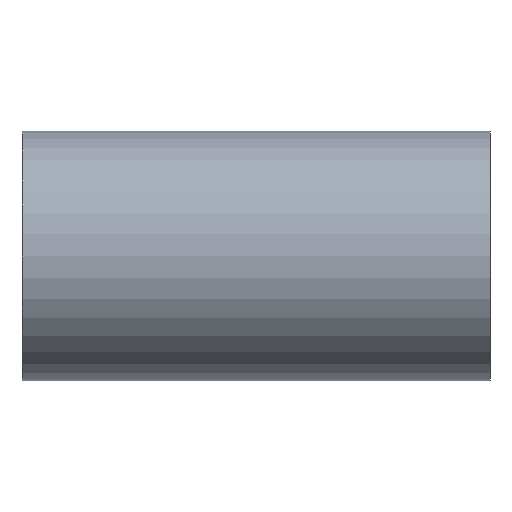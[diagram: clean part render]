
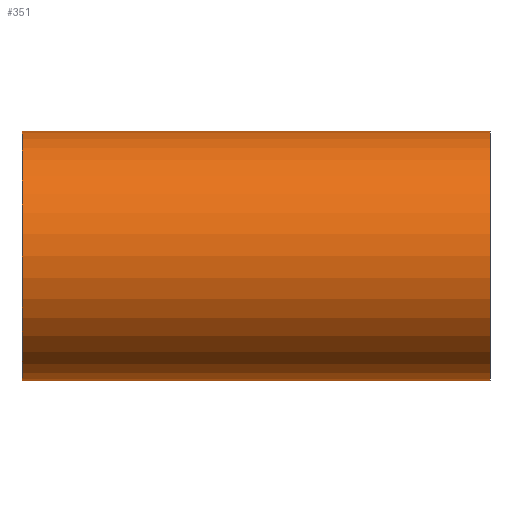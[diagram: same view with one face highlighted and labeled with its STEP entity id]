
A CAD part, front view. The second image highlights one B-rep face of the part: STEP entity #351.
In plain terms, the highlighted cylindrical face has radius 31.75 mm (diameter 63.5 mm), a partial arc.
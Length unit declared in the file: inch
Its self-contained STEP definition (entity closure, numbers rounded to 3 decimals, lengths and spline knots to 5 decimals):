
#6 = EDGE_LOOP ( 'NONE', ( #121, #387, #478, #99 ) ) ;
#21 = DIRECTION ( 'NONE',  ( 0., 0., -1. ) ) ;
#26 = CARTESIAN_POINT ( 'NONE',  ( -2.3435, 0., 0. ) ) ;
#48 = DIRECTION ( 'NONE',  ( 1., 0., 0. ) ) ;
#81 = VECTOR ( 'NONE', #574, 39.37008 ) ;
#99 = ORIENTED_EDGE ( 'NONE', *, *, #378, .T. ) ;
#121 = ORIENTED_EDGE ( 'NONE', *, *, #578, .F. ) ;
#158 = LINE ( 'NONE', #486, #513 ) ;
#159 = CARTESIAN_POINT ( 'NONE',  ( -2.3435, 0., 1.25 ) ) ;
#184 = CIRCLE ( 'NONE', #331, 1.25 ) ;
#195 = DIRECTION ( 'NONE',  ( -1., 0., 0. ) ) ;
#202 = LINE ( 'NONE', #577, #81 ) ;
#216 = FACE_OUTER_BOUND ( 'NONE', #6, .T. ) ;
#238 = CARTESIAN_POINT ( 'NONE',  ( 2.3435, 0., 1.25 ) ) ;
#243 = DIRECTION ( 'NONE',  ( 0., 0., -1. ) ) ;
#304 = DIRECTION ( 'NONE',  ( 1., 0., 0. ) ) ;
#328 = DIRECTION ( 'NONE',  ( -1., 0., 0. ) ) ;
#329 = CIRCLE ( 'NONE', #517, 1.25 ) ;
#331 = AXIS2_PLACEMENT_3D ( 'NONE', #585, #304, #21 ) ;
#338 = VERTEX_POINT ( 'NONE', #514 ) ;
#351 = ADVANCED_FACE ( 'NONE', ( #216 ), #516, .T. ) ;
#373 = VERTEX_POINT ( 'NONE', #238 ) ;
#378 = EDGE_CURVE ( 'NONE', #599, #470, #329, .T. ) ;
#387 = ORIENTED_EDGE ( 'NONE', *, *, #545, .F. ) ;
#388 = DIRECTION ( 'NONE',  ( 0., 0., 1. ) ) ;
#390 = AXIS2_PLACEMENT_3D ( 'NONE', #469, #328, #388 ) ;
#392 = CARTESIAN_POINT ( 'NONE',  ( -2.3435, 0., -1.25 ) ) ;
#469 = CARTESIAN_POINT ( 'NONE',  ( 2.3435, 0., 0. ) ) ;
#470 = VERTEX_POINT ( 'NONE', #392 ) ;
#478 = ORIENTED_EDGE ( 'NONE', *, *, #597, .T. ) ;
#486 = CARTESIAN_POINT ( 'NONE',  ( 2.3435, 0., -1.25 ) ) ;
#513 = VECTOR ( 'NONE', #195, 39.37008 ) ;
#514 = CARTESIAN_POINT ( 'NONE',  ( 2.3435, 0., -1.25 ) ) ;
#516 = CYLINDRICAL_SURFACE ( 'NONE', #390, 1.25 ) ;
#517 = AXIS2_PLACEMENT_3D ( 'NONE', #26, #48, #243 ) ;
#545 = EDGE_CURVE ( 'NONE', #373, #338, #184, .T. ) ;
#574 = DIRECTION ( 'NONE',  ( -1., 0., 0. ) ) ;
#577 = CARTESIAN_POINT ( 'NONE',  ( 2.3435, 0., 1.25 ) ) ;
#578 = EDGE_CURVE ( 'NONE', #338, #470, #158, .T. ) ;
#585 = CARTESIAN_POINT ( 'NONE',  ( 2.3435, 0., 0. ) ) ;
#597 = EDGE_CURVE ( 'NONE', #373, #599, #202, .T. ) ;
#599 = VERTEX_POINT ( 'NONE', #159 ) ;
